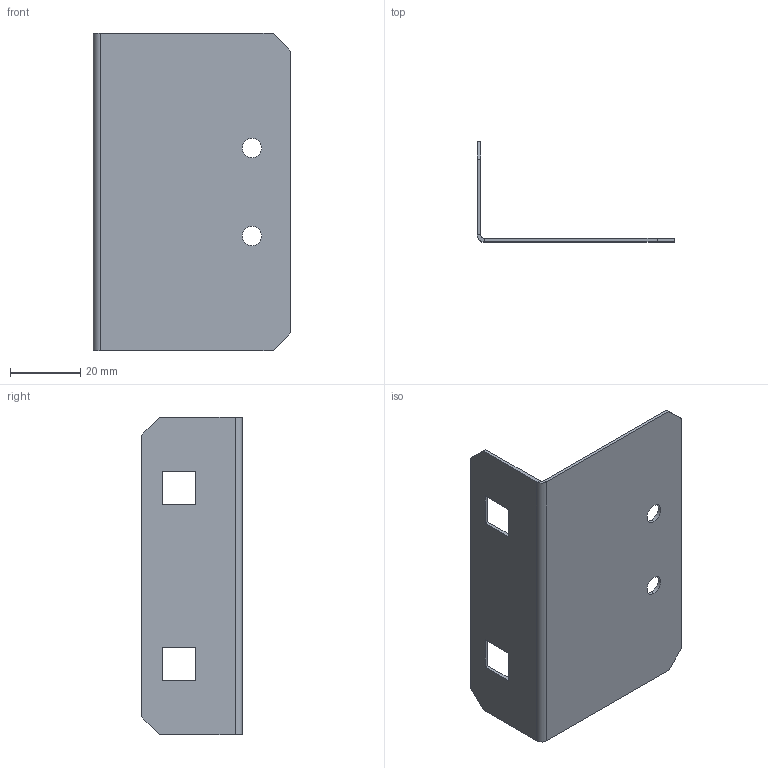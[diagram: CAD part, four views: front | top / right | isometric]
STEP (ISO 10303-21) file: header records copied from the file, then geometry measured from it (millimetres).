
FILE_DESCRIPTION (( 'STEP AP203' ), '1' );
FILE_NAME ('Äåðæàòåëü ïëàñòðîíîâ 100 ìì.STEP', '2025-02-19T15:30:00', ( '' ), ( '' ), 'SwSTEP 2.0', 'SolidWorks 2021', '' );
FILE_SCHEMA (( 'CONFIG_CONTROL_DESIGN' ));
Length unit declared in the file: millimetre
Products named in the file (1): Äåðæàòåëü ïëàñòðîíîâ 100 ìì
Bounding box: 56 x 28.5 x 90 mm (x, y, z)
Volume: 7179 mm3; surface area: 14802.6 mm2
Topology: 1 solids, 1 shells, 30 faces, 76 edges, 48 vertices
Faces by surface type: plane 24, cylinder 6
Entity records: 981 total; most frequent: CARTESIAN_POINT 155, ORIENTED_EDGE 152, DIRECTION 150, EDGE_CURVE 76, LINE 64, VECTOR 64, VERTEX_POINT 48, AXIS2_PLACEMENT_3D 43
